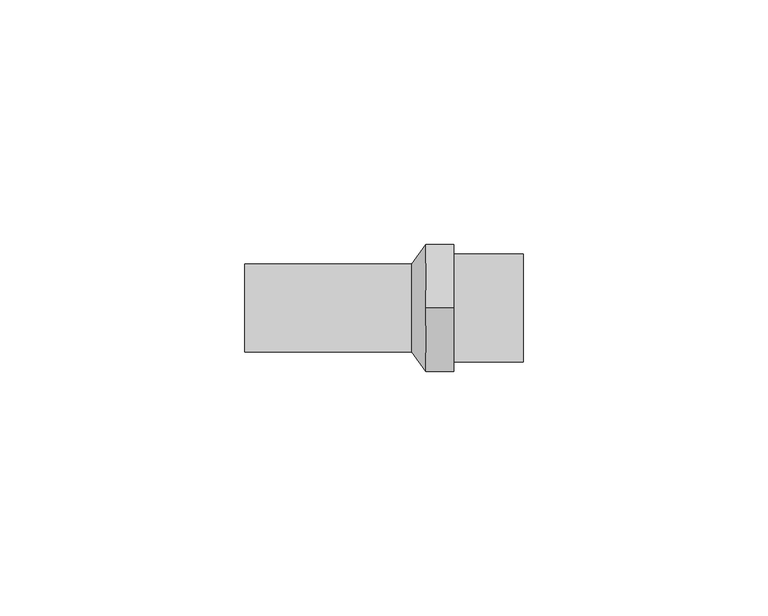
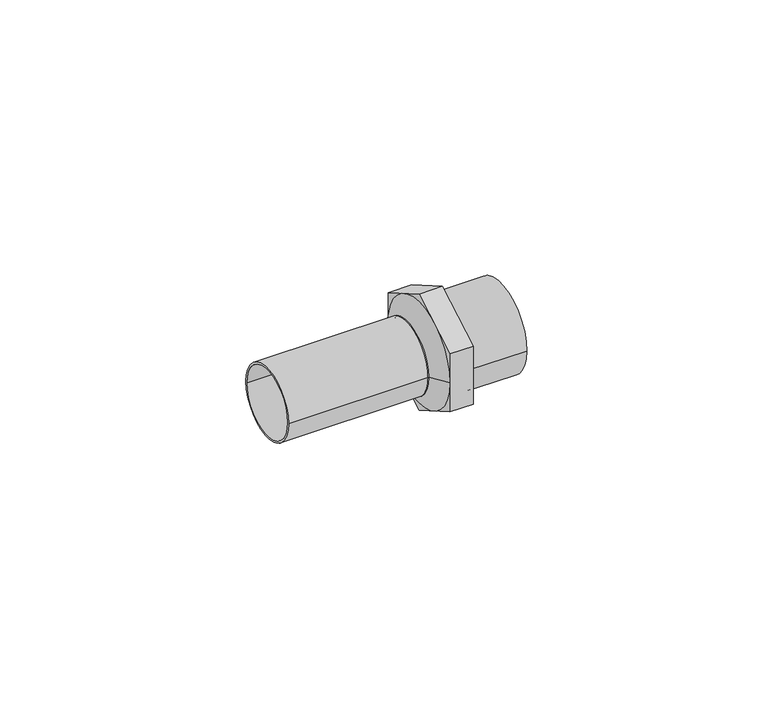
"""IFC4 building model written with IfcOpenShell, lengths in millimetres: pipe fitting geometry, VALTEC_VTi.906.I_Вставка с наружной резьбой нержавеющая сталь : VTi.906.I."""

from ifc_helpers import new_model, si_unit, point, frame, origin, origin_2d, place, context, project, spatial, polyline, circle_curve, trimmed, segment, composite_curve, outline, extrude, source, transform, mapped, element, save
from ifc_brep_helpers import plane_surface, revolved_surface, advanced_brep


def pipe_fitting_a8b7a712(model_context):
    return source(origin(), model_context, "Body", "SolidModel", [
        extrude(outline(composite_curve([segment(trimmed(circle_curve(origin_2d(), 11.0), [point((-11.0, 0.0))], [point((11.0, 0.0))], False, "CARTESIAN"), True, "CONTINUOUS"), segment(trimmed(circle_curve(origin_2d(), 11.0), [point((11.0, 0.0))], [point((-11.0, 0.0))], False, "CARTESIAN"), True, "CONTINUOUS")], self_intersect=False), holes=[composite_curve([segment(trimmed(circle_curve(origin_2d(), 10.0), [point((-10.0, 0.0))], [point((10.0, 0.0))], True, "CARTESIAN"), True, "CONTINUOUS"), segment(trimmed(circle_curve(origin_2d(), 10.0), [point((10.0, 0.0))], [point((-10.0, 0.0))], True, "CARTESIAN"), True, "CONTINUOUS")], self_intersect=False)]), frame((42.75, 0.0, 0.0), z_axis=(1.0, 0.0, 0.0), x_axis=(0.0, 1.0, 0.0)), (0.0, 0.0, 1.0), 14.25),
        advanced_brep(
        [(37.05, -13.0, 0.0), (37.05, 13.0, 0.0), (34.2, -9.0, 0.0), (34.2, 9.0, 0.0)],
        [
            (0, 1, circle_curve(frame((37.05, 0.0, 0.0), z_axis=(1.0, 0.0, 0.0), x_axis=(0.0, -1.0, 0.0)), 13.0)),
            (1, 0, circle_curve(frame((37.05, 0.0, 0.0), z_axis=(1.0, 0.0, 0.0), x_axis=(0.0, 1.0, 0.0)), 13.0)),
            (2, 3, circle_curve(frame((34.2, 0.0, 0.0), z_axis=(-1.0, 0.0, 0.0), x_axis=(0.0, 1.0, 0.0)), 9.0)),
            (3, 2, circle_curve(frame((34.2, 0.0, 0.0), z_axis=(-1.0, 0.0, 0.0), x_axis=(0.0, -1.0, 0.0)), 9.0)),
            (3, 1),
            (0, 2),
        ],
        [
            plane_surface(frame((37.05, 0.0, 0.0), z_axis=(1.0, 0.0, 0.0), x_axis=(0.0, 0.0, -1.0))),
            plane_surface(frame((34.2, 0.0, 0.0), z_axis=(-1.0, 0.0, 0.0), x_axis=(0.0, 0.0, -1.0))),
            revolved_surface(polyline([(34.2, 9.000000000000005, 0.0), (37.05, 13.0, 0.0)]), (27.7875, 0.0, 0.0), (1.0, 0.0, 0.0)),
            revolved_surface(polyline([(34.2, -9.000000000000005, 0.0), (37.05, -13.0, 0.0)]), (27.7875, 0.0, 0.0), (1.0, 0.0, 0.0)),
        ],
        [
            (0, [[1, 2]]),
            (1, [[3, 4]]),
            (2, [[-4, 5, -1, 6]]),
            (3, [[-3, -6, -2, -5]]),
        ],
    ),
        extrude(outline(polyline([(0.0, 15.011107), (13.0, 7.5055535), (13.0, -7.5055535), (0.0, -15.011107), (-13.0, -7.5055535), (-13.0, 7.5055535), (0.0, 15.011107)]), holes=[composite_curve([segment(trimmed(circle_curve(origin_2d(), 10.0), [point((-10.0, 0.0))], [point((10.0, 0.0))], True, "CARTESIAN"), True, "CONTINUOUS"), segment(trimmed(circle_curve(origin_2d(), 10.0), [point((10.0, 0.0))], [point((-10.0, 0.0))], True, "CARTESIAN"), True, "CONTINUOUS")], self_intersect=False)]), frame((37.05, 0.0, 0.0), z_axis=(1.0, 0.0, 0.0), x_axis=(0.0, 1.0, 0.0)), (0.0, 0.0, 1.0), 5.7),
        extrude(outline(composite_curve([segment(trimmed(circle_curve(origin_2d(), 9.0), [point((-9.0, 0.0))], [point((9.0, 0.0))], False, "CARTESIAN"), True, "CONTINUOUS"), segment(trimmed(circle_curve(origin_2d(), 9.0), [point((9.0, 0.0))], [point((-9.0, 0.0))], False, "CARTESIAN"), True, "CONTINUOUS")], self_intersect=False), holes=[composite_curve([segment(trimmed(circle_curve(origin_2d(), 8.5), [point((-8.5, 0.0))], [point((8.5, 0.0))], True, "CARTESIAN"), True, "CONTINUOUS"), segment(trimmed(circle_curve(origin_2d(), 8.5), [point((8.5, 0.0))], [point((-8.5, 0.0))], True, "CARTESIAN"), True, "CONTINUOUS")], self_intersect=False)]), frame((0.0, 0.0, 0.0), z_axis=(1.0, 0.0, 0.0), x_axis=(0.0, 1.0, 0.0)), (0.0, 0.0, 1.0), 34.2),
    ])


if __name__ == "__main__":
    model = new_model("IFC4")
    model_context = context("Model", 3, world=origin())
    ifc_project = project(units=[si_unit("LENGTHUNIT", "METRE", prefix="MILLI")], contexts=[model_context])
    site = spatial("IfcSite", under=ifc_project)
    building = spatial("IfcBuilding", under=site)
    placement = place(None, origin())
    pipe_fitting_shape = pipe_fitting_a8b7a712(model_context)
    element("IfcPipeFitting", 1, ObjectType="VALTEC_VTi.906.I_Вставка с наружной резьбой нержавеющая сталь : VTi.906.I", at=placement, inside=building, context=model_context, shape_type="MappedRepresentation", body=[
        mapped(pipe_fitting_shape, transform((0.0, 0.0, 0.0), x_axis=(1.0, 0.0, 0.0), y_axis=(0.0, 1.0, 0.0), z_axis=(0.0, 0.0, 1.0))),
    ])
    save(model, "model.ifc")
